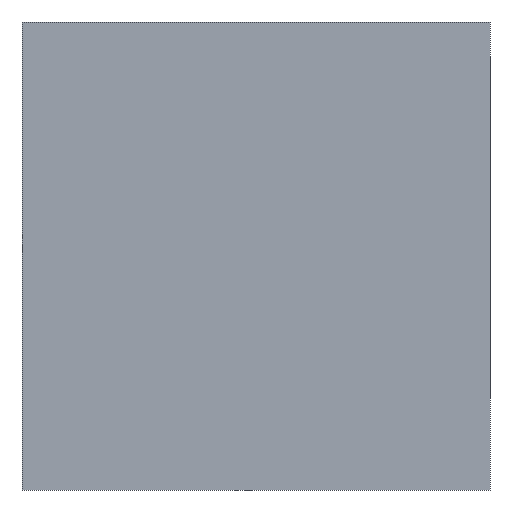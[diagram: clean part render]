
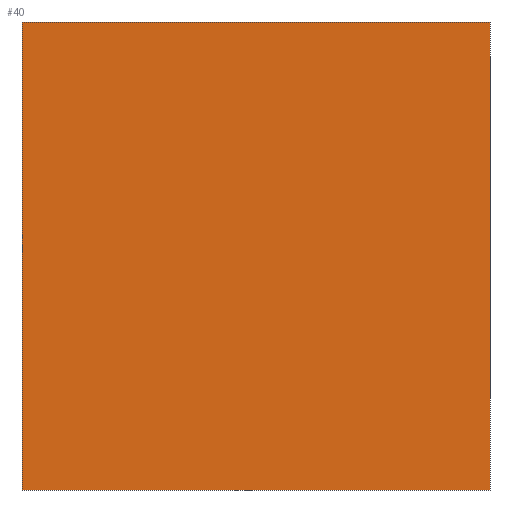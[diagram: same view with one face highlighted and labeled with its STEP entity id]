
A CAD part, front view. The second image highlights one B-rep face of the part: STEP entity #40.
In plain terms, the highlighted planar face has unit normal (0, -1, 0).
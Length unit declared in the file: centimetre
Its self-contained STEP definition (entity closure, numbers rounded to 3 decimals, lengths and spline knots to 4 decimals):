
#12 = VECTOR ( 'NONE', #440, 100. ) ;
#35 = CARTESIAN_POINT ( 'NONE',  ( 1000., 0., 1000. ) ) ;
#40 = ADVANCED_FACE ( 'NONE', ( #111 ), #225, .F. ) ;
#42 = VERTEX_POINT ( 'NONE', #475 ) ;
#52 = CARTESIAN_POINT ( 'NONE',  ( 0., 0., 1000. ) ) ;
#55 = EDGE_CURVE ( 'NONE', #42, #336, #376, .T. ) ;
#71 = EDGE_LOOP ( 'NONE', ( #222, #201, #448, #105 ) ) ;
#78 = CARTESIAN_POINT ( 'NONE',  ( 0., 0., 1000. ) ) ;
#98 = AXIS2_PLACEMENT_3D ( 'NONE', #450, #335, #412 ) ;
#100 = EDGE_CURVE ( 'NONE', #303, #336, #191, .T. ) ;
#105 = ORIENTED_EDGE ( 'NONE', *, *, #224, .T. ) ;
#107 = EDGE_CURVE ( 'NONE', #446, #42, #378, .T. ) ;
#111 = FACE_OUTER_BOUND ( 'NONE', #71, .T. ) ;
#113 = DIRECTION ( 'NONE',  ( 0., 0., -1. ) ) ;
#143 = VECTOR ( 'NONE', #229, 100. ) ;
#164 = VECTOR ( 'NONE', #414, 100. ) ;
#191 = LINE ( 'NONE', #447, #164 ) ;
#201 = ORIENTED_EDGE ( 'NONE', *, *, #55, .F. ) ;
#221 = LINE ( 'NONE', #473, #12 ) ;
#222 = ORIENTED_EDGE ( 'NONE', *, *, #100, .T. ) ;
#224 = EDGE_CURVE ( 'NONE', #446, #303, #221, .T. ) ;
#225 = PLANE ( 'NONE',  #98 ) ;
#229 = DIRECTION ( 'NONE',  ( 1., 0., 0. ) ) ;
#296 = VECTOR ( 'NONE', #113, 100. ) ;
#303 = VERTEX_POINT ( 'NONE', #416 ) ;
#304 = CARTESIAN_POINT ( 'NONE',  ( 1000., 0., 0. ) ) ;
#335 = DIRECTION ( 'NONE',  ( 0., 1., 0. ) ) ;
#336 = VERTEX_POINT ( 'NONE', #304 ) ;
#376 = LINE ( 'NONE', #35, #296 ) ;
#378 = LINE ( 'NONE', #78, #143 ) ;
#412 = DIRECTION ( 'NONE',  ( 0., 0., 1. ) ) ;
#414 = DIRECTION ( 'NONE',  ( 1., 0., 0. ) ) ;
#416 = CARTESIAN_POINT ( 'NONE',  ( 0., 0., 0. ) ) ;
#440 = DIRECTION ( 'NONE',  ( 0., 0., -1. ) ) ;
#446 = VERTEX_POINT ( 'NONE', #52 ) ;
#447 = CARTESIAN_POINT ( 'NONE',  ( 0., 0., 0. ) ) ;
#448 = ORIENTED_EDGE ( 'NONE', *, *, #107, .F. ) ;
#450 = CARTESIAN_POINT ( 'NONE',  ( 0., 0., 1000. ) ) ;
#473 = CARTESIAN_POINT ( 'NONE',  ( 0., 0., 1000. ) ) ;
#475 = CARTESIAN_POINT ( 'NONE',  ( 1000., 0., 1000. ) ) ;
